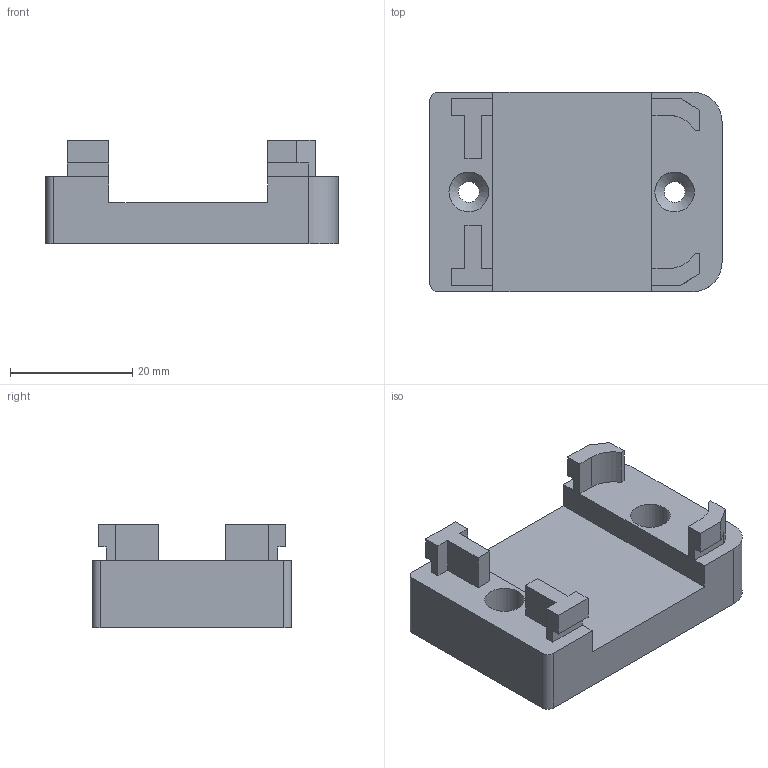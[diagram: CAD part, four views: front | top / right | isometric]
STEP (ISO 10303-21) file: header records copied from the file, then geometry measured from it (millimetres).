
FILE_DESCRIPTION(/* description */ (''),/* implementation_level */ '2;1');
FILE_NAME(/* name */ 'C:/Users/HIRSCH/Desktop/MagHolderAO.step',/* time_stamp */ '2022-07-18T22:05:50+02:00',/* author */ (''),/* organization */ (''),/* preprocessor_version */ 'ST-DEVELOPER v18.1',/* originating_system */ 'Autodesk Translation Framework v10.13.0.1454',/* authorisation */ '');
FILE_SCHEMA (('AUTOMOTIVE_DESIGN { 1 0 10303 214 3 1 1 }'));
Length unit declared in the file: millimetre
Products named in the file (1): MagBaseAutoOrdnance
Bounding box: 47.8 x 32.6 x 17 mm (x, y, z)
Volume: 13477.5 mm3; surface area: 5929.7 mm2
Topology: 1 solids, 1 shells, 58 faces, 164 edges, 108 vertices
Faces by surface type: plane 46, cylinder 10, cone 2
Full cylindrical faces by diameter (mm): 3.4 x2, 6.5 x2
Entity records: 1897 total; most frequent: CARTESIAN_POINT 331, ORIENTED_EDGE 328, DIRECTION 302, EDGE_CURVE 164, LINE 144, VECTOR 144, VERTEX_POINT 108, AXIS2_PLACEMENT_3D 79
